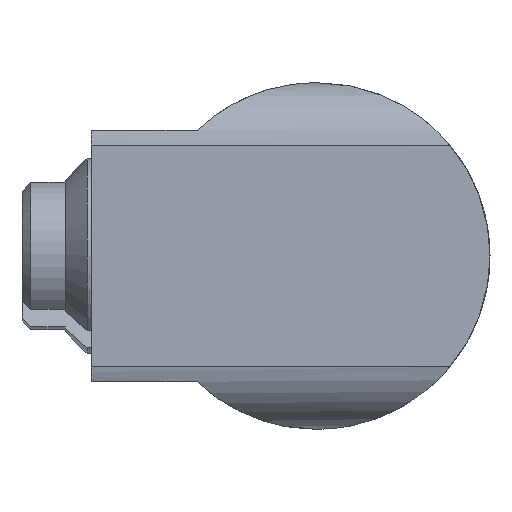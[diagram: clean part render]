
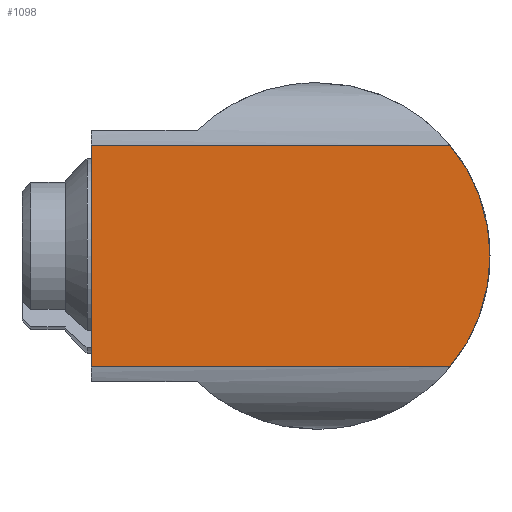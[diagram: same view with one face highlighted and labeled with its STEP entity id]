
A CAD part, left-side view. The second image highlights one B-rep face of the part: STEP entity #1098.
In plain terms, the highlighted planar face has unit normal (-1, 0, 0).
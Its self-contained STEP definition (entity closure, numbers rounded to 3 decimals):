
#5 = AXIS2_PLACEMENT_3D ( 'NONE', #229, #1548, #711 ) ;
#58 = LINE ( 'NONE', #946, #1239 ) ;
#60 = CARTESIAN_POINT ( 'NONE',  ( 0., 2.6, 1.28 ) ) ;
#74 = DIRECTION ( 'NONE',  ( 0., 0., 1. ) ) ;
#115 = PLANE ( 'NONE',  #5 ) ;
#215 = EDGE_LOOP ( 'NONE', ( #1199, #638, #490, #1413 ) ) ;
#229 = CARTESIAN_POINT ( 'NONE',  ( 0., 0., 0. ) ) ;
#301 = AXIS2_PLACEMENT_3D ( 'NONE', #651, #385, #642 ) ;
#385 = DIRECTION ( 'NONE',  ( 1., 0., 0. ) ) ;
#482 = EDGE_CURVE ( 'NONE', #1463, #1556, #830, .T. ) ;
#490 = ORIENTED_EDGE ( 'NONE', *, *, #482, .F. ) ;
#520 = CARTESIAN_POINT ( 'NONE',  ( 0., -1.537, -1.28 ) ) ;
#571 = CARTESIAN_POINT ( 'NONE',  ( 0., 2.6, -1.28 ) ) ;
#615 = CARTESIAN_POINT ( 'NONE',  ( 0., -1.537, 1.28 ) ) ;
#626 = EDGE_CURVE ( 'NONE', #1029, #1556, #58, .T. ) ;
#638 = ORIENTED_EDGE ( 'NONE', *, *, #626, .T. ) ;
#642 = DIRECTION ( 'NONE',  ( 0., 0., -1. ) ) ;
#651 = CARTESIAN_POINT ( 'NONE',  ( 0., 0., 0. ) ) ;
#655 = CARTESIAN_POINT ( 'NONE',  ( 0., -6.41, 1.28 ) ) ;
#661 = DIRECTION ( 'NONE',  ( 0., 1., 0. ) ) ;
#711 = DIRECTION ( 'NONE',  ( 0., 0., -1. ) ) ;
#776 = CARTESIAN_POINT ( 'NONE',  ( 0., 2.6, 1.45 ) ) ;
#830 = CIRCLE ( 'NONE', #301, 2. ) ;
#946 = CARTESIAN_POINT ( 'NONE',  ( 0., -6.41, -1.28 ) ) ;
#1010 = EDGE_CURVE ( 'NONE', #1029, #1368, #1536, .T. ) ;
#1029 = VERTEX_POINT ( 'NONE', #571 ) ;
#1035 = VECTOR ( 'NONE', #74, 1000. ) ;
#1051 = EDGE_CURVE ( 'NONE', #1463, #1368, #1280, .T. ) ;
#1098 = ADVANCED_FACE ( 'NONE', ( #1559 ), #115, .F. ) ;
#1199 = ORIENTED_EDGE ( 'NONE', *, *, #1010, .F. ) ;
#1230 = VECTOR ( 'NONE', #661, 1000. ) ;
#1239 = VECTOR ( 'NONE', #1550, 1000. ) ;
#1280 = LINE ( 'NONE', #655, #1230 ) ;
#1368 = VERTEX_POINT ( 'NONE', #60 ) ;
#1413 = ORIENTED_EDGE ( 'NONE', *, *, #1051, .T. ) ;
#1463 = VERTEX_POINT ( 'NONE', #615 ) ;
#1536 = LINE ( 'NONE', #776, #1035 ) ;
#1548 = DIRECTION ( 'NONE',  ( 1., 0., 0. ) ) ;
#1550 = DIRECTION ( 'NONE',  ( 0., -1., 0. ) ) ;
#1556 = VERTEX_POINT ( 'NONE', #520 ) ;
#1559 = FACE_OUTER_BOUND ( 'NONE', #215, .T. ) ;
